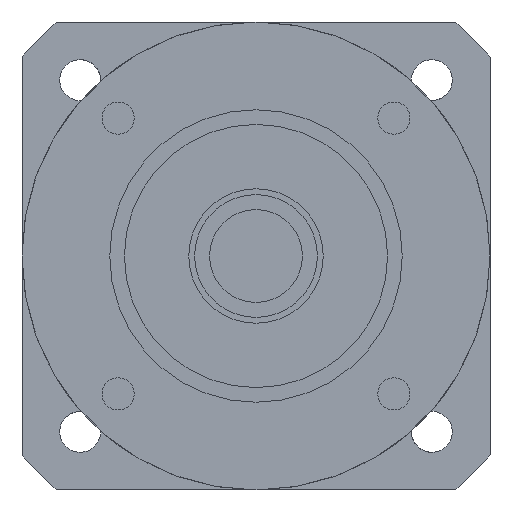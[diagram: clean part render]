
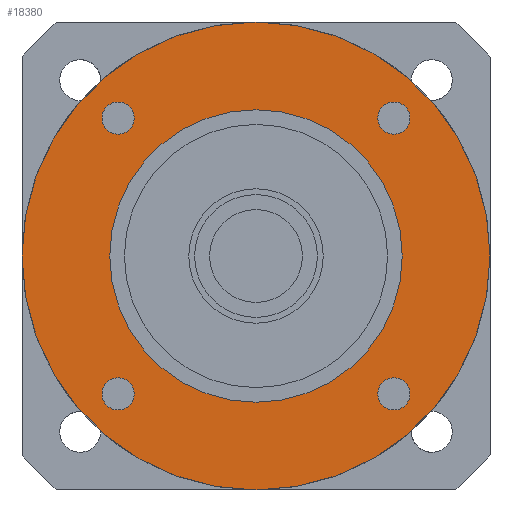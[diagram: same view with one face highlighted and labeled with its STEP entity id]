
A CAD part, left-side view. The second image highlights one B-rep face of the part: STEP entity #18380.
In plain terms, the highlighted planar face has unit normal (-1, 0, 0) as drawn and (0, 0, -1) by its records, which use the part's own axes.
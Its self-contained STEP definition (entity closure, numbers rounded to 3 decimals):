
#14120=CARTESIAN_POINT('',(23.571,-26.321,-42.));
#14130=VERTEX_POINT('',#14120);
#14160=CARTESIAN_POINT('',(23.571,-23.571,-42.));
#14170=DIRECTION('',(0.,0.,1.));
#14180=DIRECTION('',(0.,-1.,0.));
#14190=AXIS2_PLACEMENT_3D('',#14160,#14170,#14180);
#14200=CIRCLE('',#14190,2.75);
#14210=CARTESIAN_POINT('',(23.571,-20.821,-42.));
#14220=VERTEX_POINT('',#14210);
#14230=EDGE_CURVE('',#14130,#14220,#14200,.T.);
#17400=CARTESIAN_POINT('',(-40.,0.,-42.));
#17410=VERTEX_POINT('',#17400);
#17440=CARTESIAN_POINT('',(0.,0.,-42.));
#17450=DIRECTION('',(0.,0.,-1.));
#17460=DIRECTION('',(1.,0.,0.));
#17470=AXIS2_PLACEMENT_3D('',#17440,#17450,#17460);
#17480=CIRCLE('',#17470,40.);
#17490=CARTESIAN_POINT('',(40.,0.,-42.));
#17500=VERTEX_POINT('',#17490);
#17510=EDGE_CURVE('',#17410,#17500,#17480,.T.);
#17630=CARTESIAN_POINT('',(0.,0.,-42.));
#17640=DIRECTION('',(0.,0.,1.));
#17650=DIRECTION('',(1.,0.,0.));
#17660=AXIS2_PLACEMENT_3D('',#17630,#17640,#17650);
#17670=PLANE('',#17660);
#17680=CARTESIAN_POINT('',(23.571,23.571,-42.));
#17690=DIRECTION('',(0.,0.,1.));
#17700=DIRECTION('',(0.,-1.,0.));
#17710=AXIS2_PLACEMENT_3D('',#17680,#17690,#17700);
#17720=CIRCLE('',#17710,2.75);
#17730=CARTESIAN_POINT('',(23.571,20.821,-42.));
#17740=VERTEX_POINT('',#17730);
#17750=CARTESIAN_POINT('',(23.571,26.321,-42.));
#17760=VERTEX_POINT('',#17750);
#17770=EDGE_CURVE('',#17740,#17760,#17720,.T.);
#17780=ORIENTED_EDGE('',*,*,#17770,.T.);
#17790=EDGE_CURVE('',#17760,#17740,#17720,.T.);
#17800=ORIENTED_EDGE('',*,*,#17790,.T.);
#17810=EDGE_LOOP('',(#17800,#17780));
#17820=FACE_BOUND('',#17810,.T.);
#17830=CARTESIAN_POINT('',(-23.571,23.571,-42.));
#17840=DIRECTION('',(0.,0.,1.));
#17850=DIRECTION('',(0.,-1.,0.));
#17860=AXIS2_PLACEMENT_3D('',#17830,#17840,#17850);
#17870=CIRCLE('',#17860,2.75);
#17880=CARTESIAN_POINT('',(-23.571,20.821,-42.));
#17890=VERTEX_POINT('',#17880);
#17900=CARTESIAN_POINT('',(-23.571,26.321,-42.));
#17910=VERTEX_POINT('',#17900);
#17920=EDGE_CURVE('',#17890,#17910,#17870,.T.);
#17930=ORIENTED_EDGE('',*,*,#17920,.T.);
#17940=EDGE_CURVE('',#17910,#17890,#17870,.T.);
#17950=ORIENTED_EDGE('',*,*,#17940,.T.);
#17960=EDGE_LOOP('',(#17950,#17930));
#17970=FACE_BOUND('',#17960,.T.);
#17980=CARTESIAN_POINT('',(-23.571,-23.571,-42.));
#17990=DIRECTION('',(0.,0.,1.));
#18000=DIRECTION('',(0.,-1.,0.));
#18010=AXIS2_PLACEMENT_3D('',#17980,#17990,#18000);
#18020=CIRCLE('',#18010,2.75);
#18030=CARTESIAN_POINT('',(-23.571,-26.321,-42.));
#18040=VERTEX_POINT('',#18030);
#18050=CARTESIAN_POINT('',(-23.571,-20.821,-42.));
#18060=VERTEX_POINT('',#18050);
#18070=EDGE_CURVE('',#18040,#18060,#18020,.T.);
#18080=ORIENTED_EDGE('',*,*,#18070,.T.);
#18090=EDGE_CURVE('',#18060,#18040,#18020,.T.);
#18100=ORIENTED_EDGE('',*,*,#18090,.T.);
#18110=EDGE_LOOP('',(#18100,#18080));
#18120=FACE_BOUND('',#18110,.T.);
#18130=CARTESIAN_POINT('',(0.,0.,
-42.));
#18140=DIRECTION('',(0.,0.,1.));
#18150=DIRECTION('',(1.,0.,0.));
#18160=AXIS2_PLACEMENT_3D('',#18130,#18140,#18150);
#18170=CIRCLE('',#18160,25.);
#18180=CARTESIAN_POINT('',(25.,0.,-42.));
#18190=VERTEX_POINT('',#18180);
#18200=CARTESIAN_POINT('',(-25.,0.,-42.));
#18210=VERTEX_POINT('',#18200);
#18220=EDGE_CURVE('',#18190,#18210,#18170,.T.);
#18230=ORIENTED_EDGE('',*,*,#18220,.T.);
#18240=EDGE_CURVE('',#18210,#18190,#18170,.T.);
#18250=ORIENTED_EDGE('',*,*,#18240,.T.);
#18260=EDGE_LOOP('',(#18250,#18230));
#18270=FACE_BOUND('',#18260,.T.);
#18280=ORIENTED_EDGE('',*,*,#14230,.T.);
#18290=EDGE_CURVE('',#14220,#14130,#14200,.T.);
#18300=ORIENTED_EDGE('',*,*,#18290,.T.);
#18310=EDGE_LOOP('',(#18300,#18280));
#18320=FACE_BOUND('',#18310,.T.);
#18330=EDGE_CURVE('',#17500,#17410,#17480,.T.);
#18340=ORIENTED_EDGE('',*,*,#18330,.T.);
#18350=ORIENTED_EDGE('',*,*,#17510,.T.);
#18360=EDGE_LOOP('',(#18350,#18340));
#18370=FACE_OUTER_BOUND('',#18360,.T.);
#18380=ADVANCED_FACE('',(#17820,#17970,#18120,#18270,#18320,#18370),
#17670,.F.);
